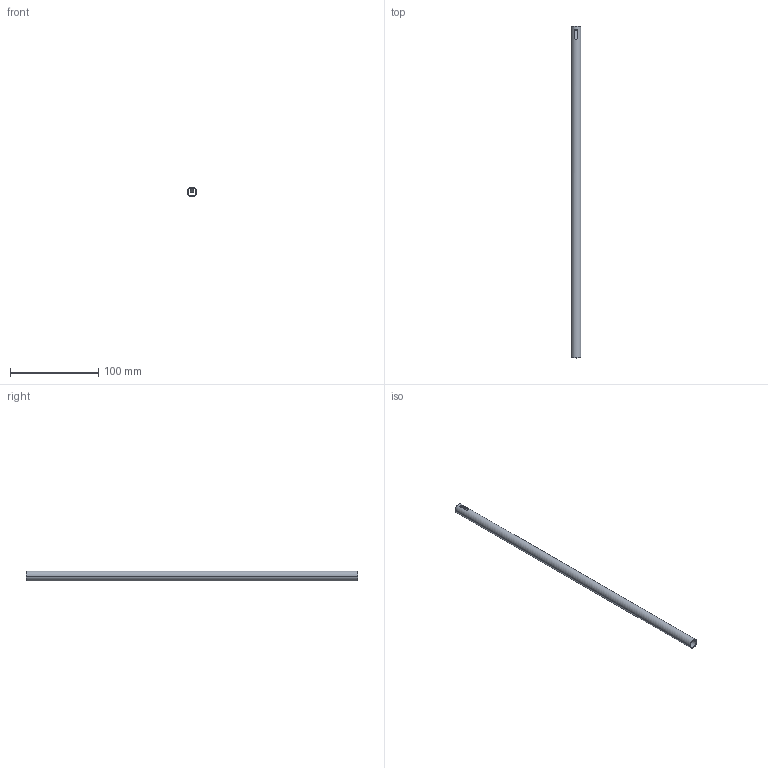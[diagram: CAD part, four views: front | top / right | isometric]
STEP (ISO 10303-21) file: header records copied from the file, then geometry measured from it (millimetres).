
FILE_DESCRIPTION (( 'STEP AP214' ), '1' );
FILE_NAME ('Relingsrohr_2S-Rundrel_P760604300_400.step', '2010-09-07T12:59:21', ( 'grass' ), ( '' ), 'SwSTEP 2.0', 'SolidWorks 2010', '' );
FILE_SCHEMA (( 'AUTOMOTIVE_DESIGN' ));
Length unit declared in the file: millimetre
Products named in the file (1): Relingsrohr_2S-Rundrel_P760604300_400
Bounding box: 11 x 376 x 11 mm (x, y, z)
Volume: 11810.1 mm3; surface area: 23728.1 mm2
Topology: 1 solids, 1 shells, 14 faces, 34 edges, 22 vertices
Faces by surface type: plane 10, cylinder 4
Entity records: 476 total; most frequent: CARTESIAN_POINT 77, DIRECTION 72, ORIENTED_EDGE 68, EDGE_CURVE 34, AXIS2_PLACEMENT_3D 25, VECTOR 22, LINE 22, VERTEX_POINT 22
